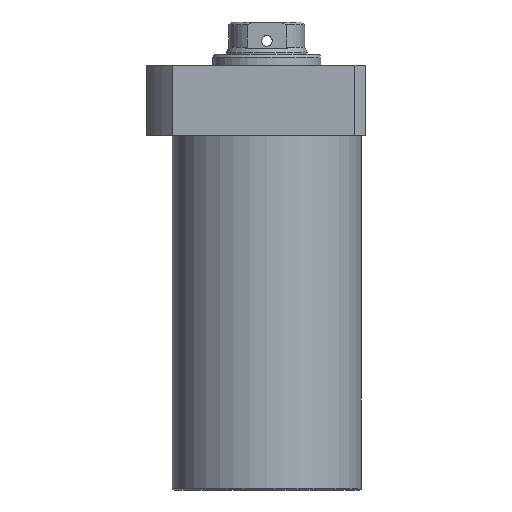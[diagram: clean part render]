
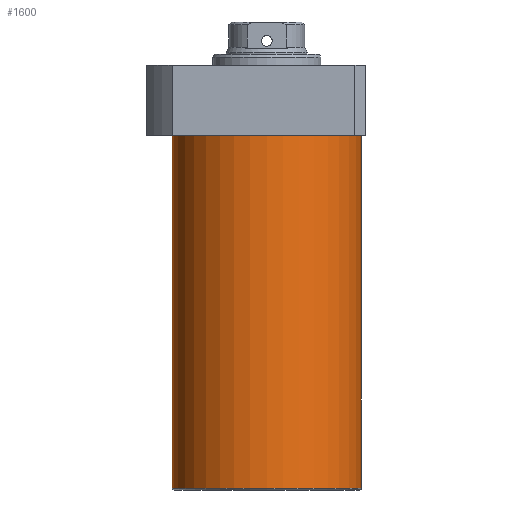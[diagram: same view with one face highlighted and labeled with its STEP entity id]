
A CAD part, front view. The second image highlights one B-rep face of the part: STEP entity #1600.
In plain terms, the highlighted cylindrical face has radius 52.5 mm (diameter 105 mm), a partial arc.
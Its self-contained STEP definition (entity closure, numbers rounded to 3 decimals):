
#161 = CARTESIAN_POINT ( 'NONE',  ( 0., 0., -215.5 ) ) ;
#165 = VECTOR ( 'NONE', #920, 1000. ) ;
#205 = CARTESIAN_POINT ( 'NONE',  ( -52.5, 0., -19.5 ) ) ;
#236 = CARTESIAN_POINT ( 'NONE',  ( 0., 0., -19.5 ) ) ;
#259 = CARTESIAN_POINT ( 'NONE',  ( 0., 0., -216.5 ) ) ;
#307 = VERTEX_POINT ( 'NONE', #2149 ) ;
#378 = EDGE_LOOP ( 'NONE', ( #1198, #1581, #1412, #1699 ) ) ;
#586 = EDGE_CURVE ( 'NONE', #1136, #2230, #1191, .T. ) ;
#740 = CARTESIAN_POINT ( 'NONE',  ( 52.5, 0., -19.5 ) ) ;
#862 = VERTEX_POINT ( 'NONE', #740 ) ;
#920 = DIRECTION ( 'NONE',  ( 0., 0., 1. ) ) ;
#982 = FACE_OUTER_BOUND ( 'NONE', #378, .T. ) ;
#1004 = VECTOR ( 'NONE', #1352, 1000. ) ;
#1005 = CIRCLE ( 'NONE', #1360, 52.5 ) ;
#1103 = EDGE_CURVE ( 'NONE', #862, #2230, #1980, .T. ) ;
#1136 = VERTEX_POINT ( 'NONE', #1305 ) ;
#1191 = LINE ( 'NONE', #1706, #1004 ) ;
#1198 = ORIENTED_EDGE ( 'NONE', *, *, #586, .F. ) ;
#1211 = EDGE_CURVE ( 'NONE', #307, #862, #1689, .T. ) ;
#1215 = DIRECTION ( 'NONE',  ( 0., 0., 1. ) ) ;
#1305 = CARTESIAN_POINT ( 'NONE',  ( -52.5, 0., -215.5 ) ) ;
#1307 = DIRECTION ( 'NONE',  ( 1., 0., 0. ) ) ;
#1352 = DIRECTION ( 'NONE',  ( 0., 0., 1. ) ) ;
#1360 = AXIS2_PLACEMENT_3D ( 'NONE', #161, #1215, #1751 ) ;
#1371 = AXIS2_PLACEMENT_3D ( 'NONE', #259, #1463, #1307 ) ;
#1393 = AXIS2_PLACEMENT_3D ( 'NONE', #236, #1813, #1627 ) ;
#1397 = EDGE_CURVE ( 'NONE', #1136, #307, #1005, .T. ) ;
#1412 = ORIENTED_EDGE ( 'NONE', *, *, #1211, .T. ) ;
#1463 = DIRECTION ( 'NONE',  ( 0., 0., 1. ) ) ;
#1581 = ORIENTED_EDGE ( 'NONE', *, *, #1397, .T. ) ;
#1600 = ADVANCED_FACE ( 'NONE', ( #982 ), #1998, .T. ) ;
#1627 = DIRECTION ( 'NONE',  ( 1., 0., 0. ) ) ;
#1689 = LINE ( 'NONE', #2159, #165 ) ;
#1699 = ORIENTED_EDGE ( 'NONE', *, *, #1103, .T. ) ;
#1706 = CARTESIAN_POINT ( 'NONE',  ( -52.5, 0., -216.5 ) ) ;
#1751 = DIRECTION ( 'NONE',  ( -1., 0., 0. ) ) ;
#1813 = DIRECTION ( 'NONE',  ( 0., 0., -1. ) ) ;
#1980 = CIRCLE ( 'NONE', #1393, 52.5 ) ;
#1998 = CYLINDRICAL_SURFACE ( 'NONE', #1371, 52.5 ) ;
#2149 = CARTESIAN_POINT ( 'NONE',  ( 52.5, 0., -215.5 ) ) ;
#2159 = CARTESIAN_POINT ( 'NONE',  ( 52.5, 0., -216.5 ) ) ;
#2230 = VERTEX_POINT ( 'NONE', #205 ) ;
